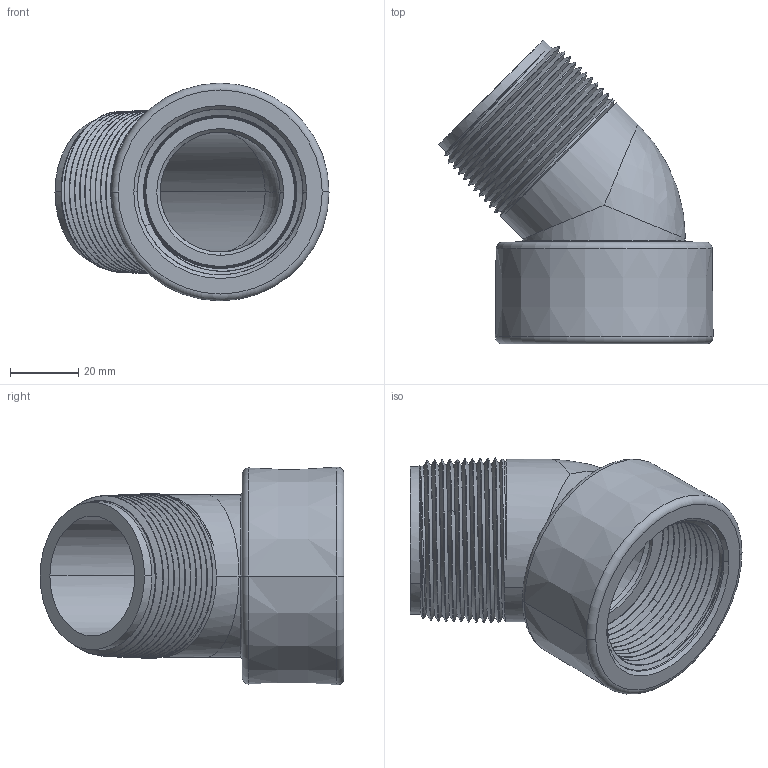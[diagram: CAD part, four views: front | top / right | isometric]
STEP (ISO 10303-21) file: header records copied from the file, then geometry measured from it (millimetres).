
FILE_DESCRIPTION(/* description */ ('Alibre Inc.'),/* implementation_level */ '2;1');
FILE_NAME(/* name */ 'export0',/* time_stamp */ '2019-10-04T17:03:21-04:00',/* author */ (''),/* organization */ (''),/* preprocessor_version */ 'ST-DEVELOPER v17',/* originating_system */ 'Alibre',/* authorisation */ '');
FILE_SCHEMA (('CONFIG_CONTROL_DESIGN'));
Length unit declared in the file: inch
Products named in the file (1): 200-N050040-1000C
Bounding box: 80.07 x 88.73 x 63.6 mm (x, y, z)
Volume: 88239.9 mm3; surface area: 34230.1 mm2
Topology: 1 solids, 1 shells, 85 faces, 242 edges, 155 vertices
Faces by surface type: cone 32, bspline 29, cylinder 12, plane 6, torus 6
Entity records: 49090 total; most frequent: CARTESIAN_POINT 47364, ORIENTED_EDGE 472, EDGE_CURVE 236, DIRECTION 162, VERTEX_POINT 155, B_SPLINE_CURVE_WITH_KNOTS 150, EDGE_LOOP 89, FACE_BOUND 89
